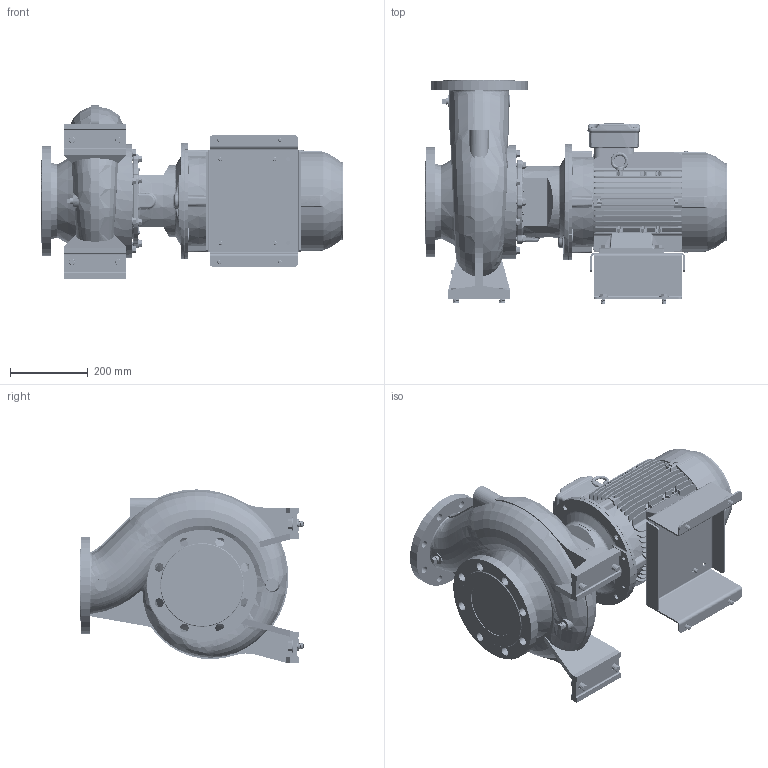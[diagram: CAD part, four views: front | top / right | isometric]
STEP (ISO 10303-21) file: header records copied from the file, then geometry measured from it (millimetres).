
FILE_DESCRIPTION (( 'STEP AP214' ), '1' );
FILE_NAME ('GSD4 125-200_5.5_(132S)_W21.STEP', '2026-07-01T05:16:01', ( '' ), ( '' ), 'SwSTEP 2.0', 'SolidWorks 2024', '' );
FILE_SCHEMA (( 'AUTOMOTIVE_DESIGN' ));
Length unit declared in the file: millimetre
Products named in the file (12): 140_178 x 118 BP - CGSDA-5245; Parametric bolt and washer_SFT-A351B; Parametric Flat Washer_M10; Parametric bolt and washer_SFT-A253B; Parametric bolt_SFT-A351B; Parametric bolt_SFT-A249B; Parametric bolt_SFT-A253B; GSD4 125-200_5.5_(132S)_W21; 132S ALIE3_W21T_B35; 125-200-132S_ﾃﾞﾌｫﾙﾄ; Parametric Flat Washer_M16; Parametric bolt and washer_SFT-A249B
Assembly tree (21 placements, depth 3):
  GSD4 125-200_5.5_(132S)_W21
    125-200-132S_ﾃﾞﾌｫﾙﾄ
    140_178 x 118 BP - CGSDA-5245
    Parametric bolt and washer_SFT-A351B  x4
      Parametric bolt_SFT-A351B
      Parametric Flat Washer_M16
    Parametric bolt and washer_SFT-A249B  x4
      Parametric bolt_SFT-A249B
      Parametric Flat Washer_M10
    Parametric bolt and washer_SFT-A253B  x4
      Parametric bolt_SFT-A253B
      Parametric Flat Washer_M10
    132S ALIE3_W21T_B35
Bounding box: 779.8 x 578 x 446.71 mm (x, y, z)
Volume: 47262196.1 mm3; surface area: 2617772.8 mm2
Topology: 31 solids, 31 shells, 4929 faces, 12691 edges, 8185 vertices
Faces by surface type: plane 2944, cylinder 1130, bspline 283, cone 271, torus 269, sphere 32
Entity records: 179818 total; most frequent: CARTESIAN_POINT 73466, ORIENTED_EDGE 22824, DIRECTION 20654, EDGE_CURVE 11412, VECTOR 7648, LINE 7648, VERTEX_POINT 7366, AXIS2_PLACEMENT_3D 6503
